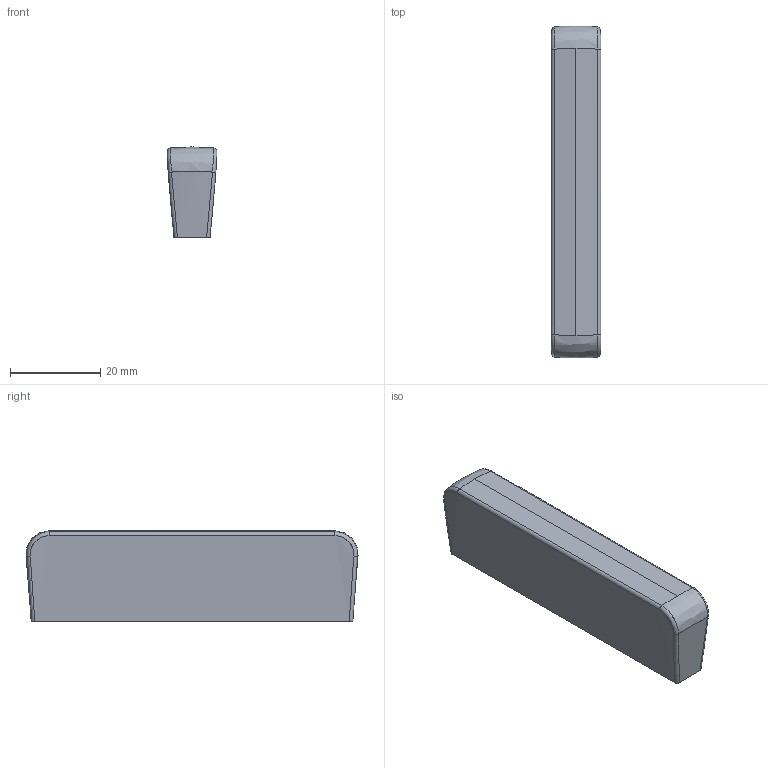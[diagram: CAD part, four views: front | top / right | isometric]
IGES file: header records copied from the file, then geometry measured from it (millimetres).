
Start section: C
Global section: file name: 8278-74 R.igs; native system: By Siemens PLM Incorporated; preprocessor: XPlus GENERIC/IGES 16.0.42; author: Author; organization: Title; date: 20210505.094634; units: millimetre
Bounding box: 11.06 x 73.69 x 20 mm (x, y, z)
Surface area: 7353.6 mm2 (no closed solid volume)
Topology: 0 solids, 0 shells, 28 faces, 130 edges, 130 vertices
Faces by surface type: bspline 28
